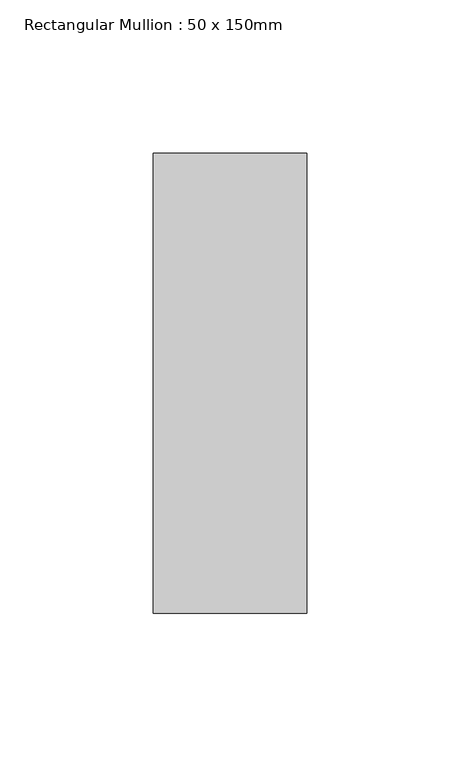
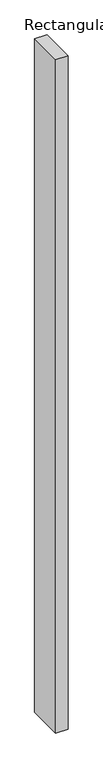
"""IFC4 building model written with IfcOpenShell, lengths in millimetres: member geometry, Rectangular Mullion : 50 x 150mm."""

import ifcopenshell
import ifcopenshell.guid

model = None  # the IFC model being written
_history = None  # IfcOwnerHistory: only IFC2X3 demands one
_inside = {}  # id of a spatial element -> (the spatial element, [elements in it])
_under = {}  # id of a project, library or spatial element -> (it, [spatial elements below it])
_declared = {}  # id of a project -> (the project, [libraries it declares])
_typed = {}  # id of a type object -> (the type object, [elements of that type])
_made_of = {}  # id of a material, layer set ... -> (it, [elements and type objects made of it])


def new_model(schema):
    """Start an empty IFC model of exactly this schema.

    Asked for "IFC4X3", IfcOpenShell would pick the latest addendum, in which some entities
    have other attributes; the version numbers below select the first issue.
    IFC2X3 requires an IfcOwnerHistory on every rooted entity: one is made here for all.
    """
    global model, _history
    if schema == "IFC4X3":
        model = ifcopenshell.file(schema_version=(4, 3, 0, 0))
    else:
        model = ifcopenshell.file(schema=schema)
    _inside.clear()
    _under.clear()
    _declared.clear()
    _typed.clear()
    _made_of.clear()
    _history = None
    if model.schema == "IFC2X3":
        org = make("IfcOrganization", Name="unknown")
        user = make(
            "IfcPersonAndOrganization",
            ThePerson=make("IfcPerson", FamilyName="unknown"),
            TheOrganization=org,
        )
        app = make(
            "IfcApplication",
            ApplicationDeveloper=org,
            Version="unknown",
            ApplicationFullName="unknown",
            ApplicationIdentifier="unknown",
        )
        _history = make(
            "IfcOwnerHistory",
            OwningUser=user,
            OwningApplication=app,
            ChangeAction="ADDED",
            CreationDate=0,
        )
    return model


def make(cls, **values):
    """One entity of the class cls with the attributes given. An attribute that is None is left unset."""
    return model.create_entity(
        cls, **{name: value for name, value in values.items() if value is not None}
    )


def rooted(cls, **values):
    """An entity with a GlobalId (a new one), such as an element, a storey or a relation."""
    return make(cls, GlobalId=ifcopenshell.guid.new(), OwnerHistory=_history, **values)


def si_unit(unit_type, name, prefix=None):
    """IfcSIUnit, for example si_unit("LENGTHUNIT", "METRE", prefix="MILLI")."""
    return make("IfcSIUnit", UnitType=unit_type, Prefix=prefix, Name=name)


def assignment(units):
    """IfcUnitAssignment: the units of a project."""
    return None if units is None else make("IfcUnitAssignment", Units=units)


def point(xyz):
    """IfcCartesianPoint."""
    return None if xyz is None else make("IfcCartesianPoint", Coordinates=xyz)


def direction(xyz):
    """IfcDirection."""
    return None if xyz is None else make("IfcDirection", DirectionRatios=xyz)


def frame(location, z_axis=None, x_axis=None):
    """IfcAxis2Placement3D, a coordinate frame: its origin and axes. An axis left out is left unset."""
    return make(
        "IfcAxis2Placement3D",
        Location=point(location),
        Axis=direction(z_axis),
        RefDirection=direction(x_axis),
    )


def origin():
    """The frame at (0, 0, 0) with its axes left unset."""
    return frame((0.0, 0.0, 0.0))


def place(relative_to, where):
    """IfcLocalPlacement: puts the frame where relative to a parent placement (None: the world)."""
    return make(
        "IfcLocalPlacement", PlacementRelTo=relative_to, RelativePlacement=where
    )


def context(
    kind, dimensions, precision=None, world=None, true_north=None, identifier=None
):
    """IfcGeometricRepresentationContext, for example the 3D "Model" context."""
    return make(
        "IfcGeometricRepresentationContext",
        ContextIdentifier=identifier,
        ContextType=kind,
        CoordinateSpaceDimension=dimensions,
        Precision=precision,
        WorldCoordinateSystem=world,
        TrueNorth=true_north,
    )


def project(units=None, contexts=None):
    """IfcProject with its units and contexts."""
    return rooted(
        "IfcProject",
        Name="project",
        RepresentationContexts=contexts,
        UnitsInContext=assignment(units),
    )


def spatial(cls, under=None, at=None, **own):
    """A site, building, storey or space (cls), placed at a placement, below another one or the project."""
    s = rooted(cls, ObjectPlacement=at, **own)
    if under is not None:
        _under.setdefault(under.id(), (under, []))[1].append(s)
    return s


def polyline(points):
    """IfcPolyline through the points."""
    return make("IfcPolyline", Points=[point(p) for p in points])


def outline(outer, holes=None, kind="AREA"):
    """IfcArbitraryClosedProfileDef: a profile drawn as a closed curve; with holes, ...WithVoids."""
    if holes is None:
        return make("IfcArbitraryClosedProfileDef", ProfileType=kind, OuterCurve=outer)
    return make(
        "IfcArbitraryProfileDefWithVoids",
        ProfileType=kind,
        OuterCurve=outer,
        InnerCurves=holes,
    )


def extrude(swept, where, along, depth):
    """IfcExtrudedAreaSolid: the profile swept, set in the frame where, extruded along a direction by depth."""
    return make(
        "IfcExtrudedAreaSolid",
        SweptArea=swept,
        Position=where,
        ExtrudedDirection=direction(along),
        Depth=depth,
    )


def shape(context_of_items, identifier, shape_type, items):
    """IfcShapeRepresentation: the items that make up one representation, for example the "Body"."""
    return make(
        "IfcShapeRepresentation",
        ContextOfItems=context_of_items,
        RepresentationIdentifier=identifier,
        RepresentationType=shape_type,
        Items=items,
    )


def source(mapping_origin, context_of_items, identifier, shape_type, items):
    """IfcRepresentationMap: a shape defined once, which mapped items show again and again."""
    return make(
        "IfcRepresentationMap",
        MappingOrigin=mapping_origin,
        MappedRepresentation=shape(context_of_items, identifier, shape_type, items),
    )


def transform(
    local_origin,
    x_axis=None,
    y_axis=None,
    z_axis=None,
    scale=None,
    scale2=None,
    scale3=None,
    uniform=True,
):
    """IfcCartesianTransformationOperator3D, or its non-uniform kind. x_axis, y_axis, z_axis: its Axis1, 2, 3."""
    if uniform:
        return make(
            "IfcCartesianTransformationOperator3D",
            Axis1=direction(x_axis),
            Axis2=direction(y_axis),
            LocalOrigin=point(local_origin),
            Scale=scale,
            Axis3=direction(z_axis),
        )
    return make(
        "IfcCartesianTransformationOperator3DnonUniform",
        Axis1=direction(x_axis),
        Axis2=direction(y_axis),
        LocalOrigin=point(local_origin),
        Scale=scale,
        Axis3=direction(z_axis),
        Scale2=scale2,
        Scale3=scale3,
    )


def mapped(mapping_source, mapping_target):
    """IfcMappedItem: shows the shape of a source again, moved by a transform."""
    return make(
        "IfcMappedItem", MappingSource=mapping_source, MappingTarget=mapping_target
    )


def made_of(thing, what):
    """Note that an element or type object is made of a material, layer set ...; save() writes the relation."""
    if what is not None:
        _made_of.setdefault(what.id(), (what, []))[1].append(thing)
    return thing


def element(
    cls,
    number,
    at=None,
    inside=None,
    cuts=None,
    type_object=None,
    material=None,
    context=None,
    identifier="Body",
    shape_type=None,
    held_by="IfcProductDefinitionShape",
    body=None,
    shapes=None,
    **own,
):
    """One element of the class cls, such as IfcWall. Its Tag is "e" and its number.

    at: its placement. inside: the storey or other place that contains it. cuts: it is an
    opening in that element (IfcRelVoidsElement). A single representation is given by context,
    identifier, shape_type and body (its items); several are given by shapes. held_by: the class
    of the entity that holds the representations. save() writes the other relations.
    """
    e = rooted(cls, Tag="e%d" % number, ObjectPlacement=at, **own)
    if body is not None:
        shapes = [shape(context, identifier, shape_type, body)]
    if shapes is not None:
        e.Representation = make(held_by, Representations=shapes)
    if inside is not None:
        _inside.setdefault(inside.id(), (inside, []))[1].append(e)
    if cuts is not None:
        rooted(
            "IfcRelVoidsElement", RelatingBuildingElement=cuts, RelatedOpeningElement=e
        )
    if type_object is not None:
        _typed.setdefault(type_object.id(), (type_object, []))[1].append(e)
    return made_of(e, material)


def aggregate(whole, parts):
    """IfcRelAggregates: a whole, such as a stair, and the parts it consists of."""
    return rooted("IfcRelAggregates", RelatingObject=whole, RelatedObjects=parts)


def save(model, path):
    """Write the relations noted so far, then the file.

    IfcRelAggregates (storeys below a building ...), IfcRelContainedInSpatialStructure (elements
    in a storey), IfcRelDefinesByType, IfcRelAssociatesMaterial and IfcRelDeclares: one each for
    every whole, place, type object, material and project.
    """
    for whole, parts in _under.values():
        aggregate(whole, parts)
    for where, things in _inside.values():
        rooted(
            "IfcRelContainedInSpatialStructure",
            RelatedElements=things,
            RelatingStructure=where,
        )
    for kind, things in _typed.values():
        rooted("IfcRelDefinesByType", RelatedObjects=things, RelatingType=kind)
    for what, things in _made_of.values():
        rooted("IfcRelAssociatesMaterial", RelatedObjects=things, RelatingMaterial=what)
    for by, libraries in _declared.values():
        rooted("IfcRelDeclares", RelatingContext=by, RelatedDefinitions=libraries)
    model.write(path)


def rectangular_mullion_50_x_150mm_185cfd49(model_context):
    return source(origin(), model_context, "Body", "SweptSolid", [
        extrude(outline(polyline([(25.0, 75.0), (25.0, -75.0), (-25.0, -75.0), (-25.0, 75.0), (25.0, 75.0)])), frame((0.0, 0.0, -2925.0), z_axis=(0.0, 0.0, 1.0), x_axis=(1.0, 0.0, 0.0)), (0.0, 0.0, 1.0), 2925.0),
    ])


if __name__ == "__main__":
    model = new_model("IFC4")
    model_context = context("Model", 3, world=origin())
    ifc_project = project(units=[si_unit("LENGTHUNIT", "METRE", prefix="MILLI")], contexts=[model_context])
    site = spatial("IfcSite", under=ifc_project)
    building = spatial("IfcBuilding", under=site)
    placement = place(None, origin())
    rectangular_mullion_50_x_150mm_shape = rectangular_mullion_50_x_150mm_185cfd49(model_context)
    element("IfcMember", 1, ObjectType="Rectangular Mullion : 50 x 150mm", at=placement, inside=building, context=model_context, shape_type="MappedRepresentation", body=[
        mapped(rectangular_mullion_50_x_150mm_shape, transform((0.0, 0.0, 0.0), x_axis=(1.0, 0.0, 0.0), y_axis=(0.0, 1.0, 0.0), z_axis=(0.0, 0.0, 1.0))),
    ])
    save(model, "model.ifc")
